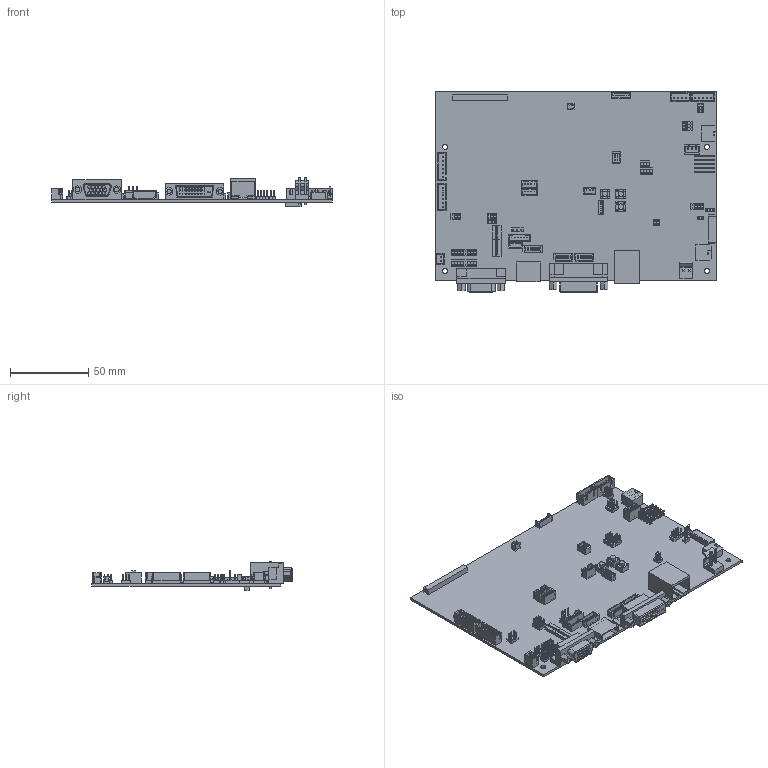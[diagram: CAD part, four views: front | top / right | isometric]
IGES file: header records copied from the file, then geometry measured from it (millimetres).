
Start section: SolidWorks IGES file using analytic representation for surfaces
Global section: file name: Y:\keith Tsang\Finsihed\2D and 3D Drawing\SVX-1920v3\3d\SVX-1920v3.IGS; native system: SolidWorks 2011; preprocessor: SolidWorks 2011; author: keithtsang; date: 150331.171546; units: millimetre
Bounding box: 179.07 x 127.76 x 18.9 mm (x, y, z)
Surface area: 65293.8 mm2 (no closed solid volume)
Topology: 0 solids, 0 shells, 2132 faces, 12458 edges, 12454 vertices
Faces by surface type: bspline 1957, revolution 175
